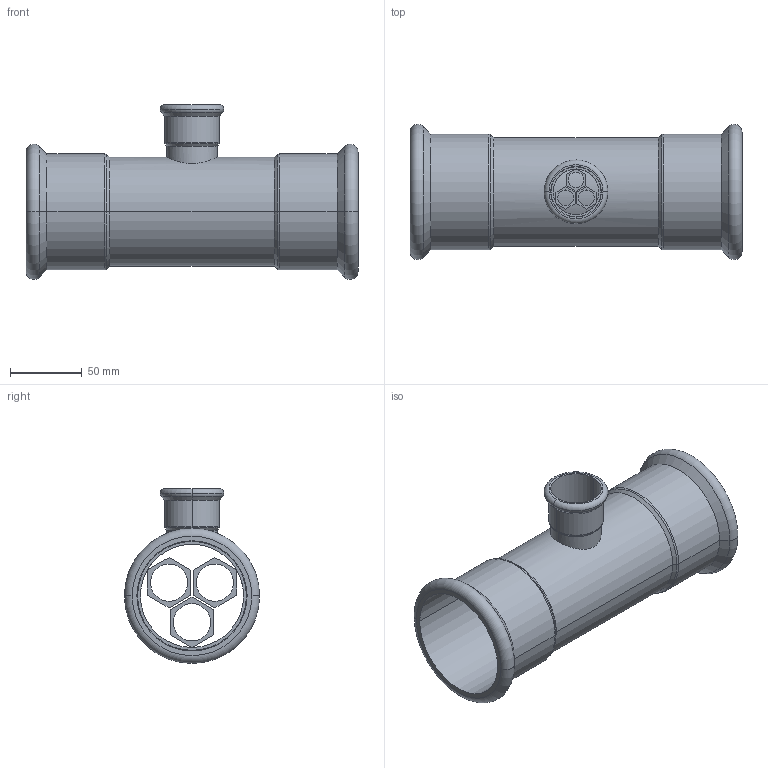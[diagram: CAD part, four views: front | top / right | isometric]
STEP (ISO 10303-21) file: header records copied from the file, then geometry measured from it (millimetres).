
FILE_DESCRIPTION(('OneSpaceDesigner STEP Export'),'2;1');
FILE_NAME('R2715 76x35x76.stp','2010-06-10T 9:25:03',(''),(''),'OneSpace Designer STEP processor for AP214 (Solid Model)','OneSpace Modeling 15.00A 14-Mar-2007 (C) CoCreate Software GmbH','');
FILE_SCHEMA(('AUTOMOTIVE_DESIGN { 1 0 10303 214 1 1 1 1 }'));
Length unit declared in the file: millimetre
Products named in the file (2): R2715_76x35x76
Assembly tree (1 placements, depth 2):
  R2715_76x35x76
    R2715_76x35x76
Bounding box: 232 x 94.48 x 122.24 mm (x, y, z)
Volume: 165247.3 mm3; surface area: 136861.2 mm2
Topology: 1 solids, 1 shells, 170 faces, 423 edges, 272 vertices
Faces by surface type: plane 90, cylinder 54, torus 14, cone 12
Entity records: 5639 total; most frequent: CARTESIAN_POINT 1914, ORIENTED_EDGE 846, DIRECTION 643, EDGE_CURVE 423, VERTEX_POINT 272, VECTOR 263, LINE 263, EDGE_LOOP 207
